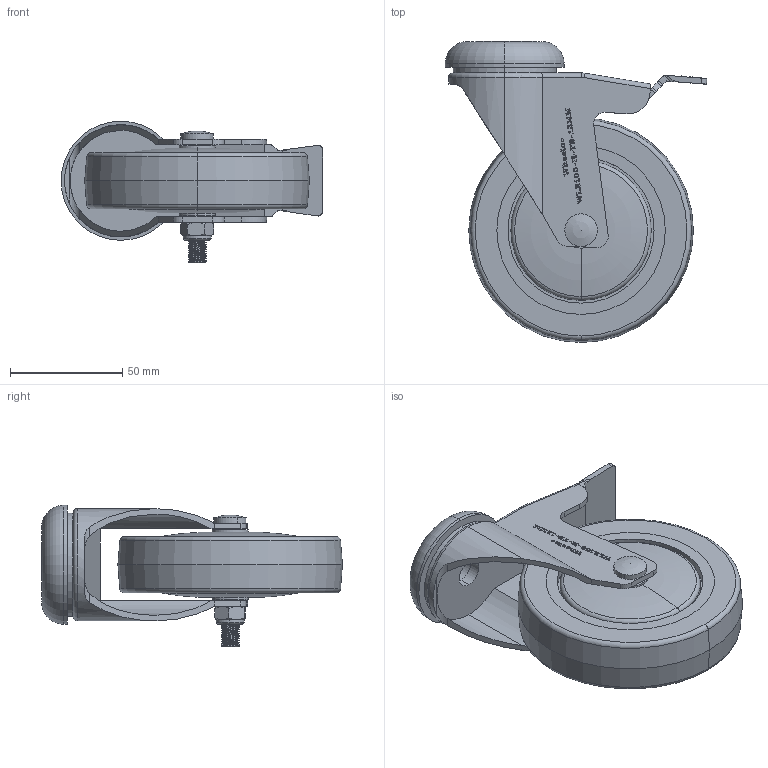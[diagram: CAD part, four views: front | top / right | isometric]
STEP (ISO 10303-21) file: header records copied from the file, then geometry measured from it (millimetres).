
FILE_DESCRIPTION (( 'STEP AP214' ), '1' );
FILE_NAME ('WLR100-H-TB 12MM.step', '2024-01-15T01:47:05', ( '' ), ( '' ), 'SwSTEP 2.0', 'SolidWorks 2022', '' );
FILE_SCHEMA (( 'AUTOMOTIVE_DESIGN' ));
Length unit declared in the file: millimetre
Products named in the file (6): WL100-H-TB 12MM CAP; WC-M8x55; WLR100-H-TB 12MM FRAME; WLR100; WLR100-H-TB 12MM; M8Nyloc-WHITE
Assembly tree (5 placements, depth 2):
  WLR100-H-TB 12MM
    WC-M8x55
    M8Nyloc-WHITE
    WLR100
    WLR100-H-TB 12MM FRAME
    WL100-H-TB 12MM CAP
Bounding box: 116.5 x 134 x 63 mm (x, y, z)
Volume: 254750.4 mm3; surface area: 58742.8 mm2
Topology: 5 solids, 5 shells, 669 faces, 1807 edges, 1189 vertices
Faces by surface type: plane 394, bspline 124, cylinder 109, torus 23, cone 18, sphere 1
Entity records: 29975 total; most frequent: CARTESIAN_POINT 13561, ORIENTED_EDGE 3608, DIRECTION 2755, EDGE_CURVE 1804, VECTOR 1241, LINE 1241, VERTEX_POINT 1187, AXIS2_PLACEMENT_3D 757
